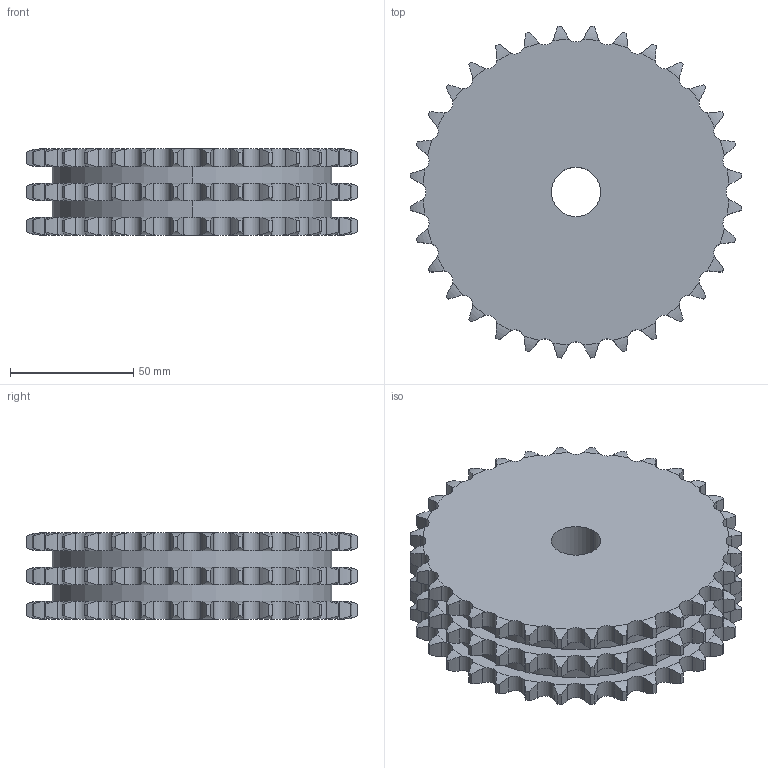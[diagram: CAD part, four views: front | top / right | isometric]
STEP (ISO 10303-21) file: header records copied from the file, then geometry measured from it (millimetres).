
FILE_DESCRIPTION((''),'2;1');
FILE_NAME('500-203-0032_PRT','2021-02-12T',('Brieden'),('Brieden'),'PRO/ENGINEER BY PARAMETRIC TECHNOLOGY CORPORATION, 2010160','PRO/ENGINEER BY PARAMETRIC TECHNOLOGY CORPORATION, 2010160','');
FILE_SCHEMA(('AUTOMOTIVE_DESIGN { 1 0 10303 214 1 1 1 1 }'));
Length unit declared in the file: millimetre
Products named in the file (1): 500-203-0032_PRT
Bounding box: 134.64 x 134.64 x 34.9 mm (x, y, z)
Volume: 396109.5 mm3; surface area: 54333.2 mm2
Topology: 1 solids, 1 shells, 588 faces, 1746 edges, 1164 vertices
Faces by surface type: cylinder 390, torus 192, plane 6
Entity records: 28349 total; most frequent: CARTESIAN_POINT 8216, ORIENTED_EDGE 3492, DIRECTION 2742, PRESENTATION_STYLE_ASSIGNMENT 1747, STYLED_ITEM 1747, CURVE_STYLE 1746, EDGE_CURVE 1746, AXIS2_PLACEMENT_3D 1176
